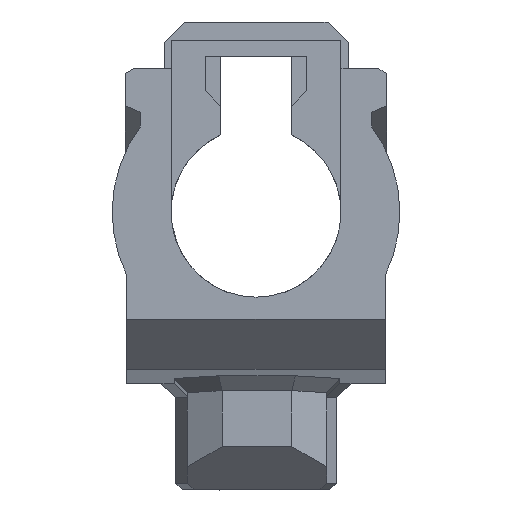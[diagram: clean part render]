
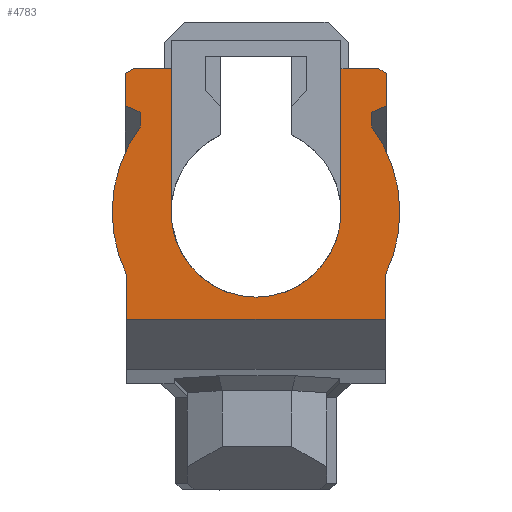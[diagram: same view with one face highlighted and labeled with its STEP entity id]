
A CAD part, front view. The second image highlights one B-rep face of the part: STEP entity #4783.
In plain terms, the highlighted planar face has unit normal (0, -1, 0).
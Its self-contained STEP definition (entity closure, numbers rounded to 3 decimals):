
#922=CARTESIAN_POINT('',(-19.329,566.,-11.));
#923=VERTEX_POINT('',#922);
#938=CARTESIAN_POINT('',(19.329,566.,-11.));
#939=VERTEX_POINT('',#938);
#946=CARTESIAN_POINT('',(-19.329,566.,-11.));
#947=DIRECTION('',(1.,0.,-0.));
#948=VECTOR('',#947,38.657);
#949=LINE('',#946,#948);
#950=EDGE_CURVE('',#923,#939,#949,.T.);
#1162=CARTESIAN_POINT('',(19.51,566.,20.931));
#1163=VERTEX_POINT('',#1162);
#1178=CARTESIAN_POINT('',(19.51,566.,25.754));
#1179=VERTEX_POINT('',#1178);
#1186=CARTESIAN_POINT('',(19.51,566.,25.754));
#1187=DIRECTION('',(-0.,-0.,-1.));
#1188=VECTOR('',#1187,4.823);
#1189=LINE('',#1186,#1188);
#1190=EDGE_CURVE('',#1179,#1163,#1189,.T.);
#2023=CARTESIAN_POINT('',(19.329,566.,-4.416));
#2024=VERTEX_POINT('',#2023);
#2031=CARTESIAN_POINT('',(19.329,566.,-11.));
#2032=DIRECTION('',(0.,0.,1.));
#2033=VECTOR('',#2032,6.584);
#2034=LINE('',#2031,#2033);
#2035=EDGE_CURVE('',#939,#2024,#2034,.T.);
#2053=CARTESIAN_POINT('',(-19.329,566.,-4.416));
#2054=VERTEX_POINT('',#2053);
#2055=CARTESIAN_POINT('',(-19.329,566.,-4.416));
#2056=DIRECTION('',(-0.,-0.,-1.));
#2057=VECTOR('',#2056,6.584);
#2058=LINE('',#2055,#2057);
#2059=EDGE_CURVE('',#2054,#923,#2058,.T.);
#2550=CARTESIAN_POINT('',(17.329,566.,19.947));
#2551=VERTEX_POINT('',#2550);
#2552=CARTESIAN_POINT('',(19.51,566.,20.931));
#2553=DIRECTION('',(-0.911,-0.,-0.411));
#2554=VECTOR('',#2553,2.394);
#2555=LINE('',#2552,#2554);
#2556=EDGE_CURVE('',#1163,#2551,#2555,.T.);
#2590=CARTESIAN_POINT('',(12.7,566.,5.));
#2591=VERTEX_POINT('',#2590);
#2598=CARTESIAN_POINT('',(12.7,566.,26.429));
#2599=VERTEX_POINT('',#2598);
#2600=CARTESIAN_POINT('',(12.7,566.,5.));
#2601=DIRECTION('',(-0.,-0.,1.));
#2602=VECTOR('',#2601,21.429);
#2603=LINE('',#2600,#2602);
#2604=EDGE_CURVE('',#2591,#2599,#2603,.T.);
#2694=CARTESIAN_POINT('',(-12.7,566.,26.429));
#2695=VERTEX_POINT('',#2694);
#2702=CARTESIAN_POINT('',(-12.7,566.,5.));
#2703=VERTEX_POINT('',#2702);
#2704=CARTESIAN_POINT('',(-12.7,566.,5.));
#2705=DIRECTION('',(0.,0.,1.));
#2706=VECTOR('',#2705,21.429);
#2707=LINE('',#2704,#2706);
#2708=EDGE_CURVE('',#2703,#2695,#2707,.T.);
#2739=CARTESIAN_POINT('',(-17.329,566.,19.947));
#2740=VERTEX_POINT('',#2739);
#2747=CARTESIAN_POINT('',(-19.51,566.,20.931));
#2748=VERTEX_POINT('',#2747);
#2749=CARTESIAN_POINT('',(-17.329,566.,19.947));
#2750=DIRECTION('',(-0.911,-0.,0.411));
#2751=VECTOR('',#2750,2.394);
#2752=LINE('',#2749,#2751);
#2753=EDGE_CURVE('',#2740,#2748,#2752,.T.);
#2903=CARTESIAN_POINT('',(17.329,566.,17.727));
#2904=VERTEX_POINT('',#2903);
#2926=CARTESIAN_POINT('',(17.329,566.,19.947));
#2927=DIRECTION('',(-0.,-0.,-1.));
#2928=VECTOR('',#2927,2.22);
#2929=LINE('',#2926,#2928);
#2930=EDGE_CURVE('',#2551,#2904,#2929,.T.);
#4524=CARTESIAN_POINT('',(18.332,566.,26.429));
#4525=VERTEX_POINT('',#4524);
#4526=CARTESIAN_POINT('',(12.7,566.,26.429));
#4527=DIRECTION('',(1.,-0.,-0.));
#4528=VECTOR('',#4527,5.632);
#4529=LINE('',#4526,#4528);
#4530=EDGE_CURVE('',#2599,#4525,#4529,.T.);
#4553=CARTESIAN_POINT('',(18.332,566.,26.429));
#4554=DIRECTION('',(0.868,-0.,-0.497));
#4555=VECTOR('',#4554,1.357);
#4556=LINE('',#4553,#4555);
#4557=EDGE_CURVE('',#4525,#1179,#4556,.T.);
#4589=CARTESIAN_POINT('',(-18.303,566.,26.429));
#4590=VERTEX_POINT('',#4589);
#4597=CARTESIAN_POINT('',(-18.303,566.,26.429));
#4598=DIRECTION('',(1.,-0.,-0.));
#4599=VECTOR('',#4598,5.603);
#4600=LINE('',#4597,#4599);
#4601=EDGE_CURVE('',#4590,#2695,#4600,.T.);
#4623=CARTESIAN_POINT('',(-19.51,566.,25.753));
#4624=VERTEX_POINT('',#4623);
#4625=CARTESIAN_POINT('',(-19.51,566.,20.931));
#4626=DIRECTION('',(-0.,-0.,1.));
#4627=VECTOR('',#4626,4.822);
#4628=LINE('',#4625,#4627);
#4629=EDGE_CURVE('',#2748,#4624,#4628,.T.);
#4663=CARTESIAN_POINT('',(-19.51,566.,25.753));
#4664=DIRECTION('',(0.873,-0.,0.489));
#4665=VECTOR('',#4664,1.383);
#4666=LINE('',#4663,#4665);
#4667=EDGE_CURVE('',#4624,#4590,#4666,.T.);
#4687=CARTESIAN_POINT('',(-17.329,566.,17.727));
#4688=VERTEX_POINT('',#4687);
#4695=CARTESIAN_POINT('',(-17.329,566.,19.947));
#4696=DIRECTION('',(-0.,-0.,-1.));
#4697=VECTOR('',#4696,2.22);
#4698=LINE('',#4695,#4697);
#4699=EDGE_CURVE('',#2740,#4688,#4698,.T.);
#4711=CARTESIAN_POINT('',(-0.,566.,-7.7));
#4712=VERTEX_POINT('',#4711);
#4721=CARTESIAN_POINT('',(0.,566.,5.));
#4722=DIRECTION('',(0.,-1.,0.));
#4723=DIRECTION('',(0.,0.,-1.));
#4724=AXIS2_PLACEMENT_3D('',#4721,#4722,#4723);
#4725=CIRCLE('',#4724,12.7);
#4726=EDGE_CURVE('',#4712,#2591,#4725,.T.);
#4739=CARTESIAN_POINT('',(0.,566.,0.));
#4740=DIRECTION('',(0.,1.,0.));
#4741=DIRECTION('',(0.,0.,1.));
#4742=AXIS2_PLACEMENT_3D('',#4739,#4740,#4741);
#4743=PLANE('',#4742);
#4744=CARTESIAN_POINT('',(0.,566.,5.));
#4745=DIRECTION('',(0.,-1.,0.));
#4746=DIRECTION('',(0.,0.,-1.));
#4747=AXIS2_PLACEMENT_3D('',#4744,#4745,#4746);
#4748=CIRCLE('',#4747,21.5);
#4749=EDGE_CURVE('',#4688,#2054,#4748,.T.);
#4750=ORIENTED_EDGE('',*,*,#4749,.T.);
#4751=ORIENTED_EDGE('',*,*,#2059,.T.);
#4752=ORIENTED_EDGE('',*,*,#950,.T.);
#4753=ORIENTED_EDGE('',*,*,#2035,.T.);
#4754=CARTESIAN_POINT('',(0.,566.,5.));
#4755=DIRECTION('',(0.,-1.,0.));
#4756=DIRECTION('',(0.,0.,-1.));
#4757=AXIS2_PLACEMENT_3D('',#4754,#4755,#4756);
#4758=CIRCLE('',#4757,21.5);
#4759=EDGE_CURVE('',#2024,#2904,#4758,.T.);
#4760=ORIENTED_EDGE('',*,*,#4759,.T.);
#4761=ORIENTED_EDGE('',*,*,#2930,.F.);
#4762=ORIENTED_EDGE('',*,*,#2556,.F.);
#4763=ORIENTED_EDGE('',*,*,#1190,.F.);
#4764=ORIENTED_EDGE('',*,*,#4557,.F.);
#4765=ORIENTED_EDGE('',*,*,#4530,.F.);
#4766=ORIENTED_EDGE('',*,*,#2604,.F.);
#4767=ORIENTED_EDGE('',*,*,#4726,.F.);
#4768=CARTESIAN_POINT('',(0.,566.,5.));
#4769=DIRECTION('',(0.,-1.,0.));
#4770=DIRECTION('',(0.,0.,-1.));
#4771=AXIS2_PLACEMENT_3D('',#4768,#4769,#4770);
#4772=CIRCLE('',#4771,12.7);
#4773=EDGE_CURVE('',#2703,#4712,#4772,.T.);
#4774=ORIENTED_EDGE('',*,*,#4773,.F.);
#4775=ORIENTED_EDGE('',*,*,#2708,.T.);
#4776=ORIENTED_EDGE('',*,*,#4601,.F.);
#4777=ORIENTED_EDGE('',*,*,#4667,.F.);
#4778=ORIENTED_EDGE('',*,*,#4629,.F.);
#4779=ORIENTED_EDGE('',*,*,#2753,.F.);
#4780=ORIENTED_EDGE('',*,*,#4699,.T.);
#4781=EDGE_LOOP('',(#4750,#4751,#4752,#4753,#4760,#4761,#4762,#4763,#4764,#4765,#4766,#4767,#4774,#4775,#4776,#4777,#4778,#4779,#4780));
#4782=FACE_BOUND('',#4781,.T.);
#4783=ADVANCED_FACE('',(#4782),#4743,.F.);
